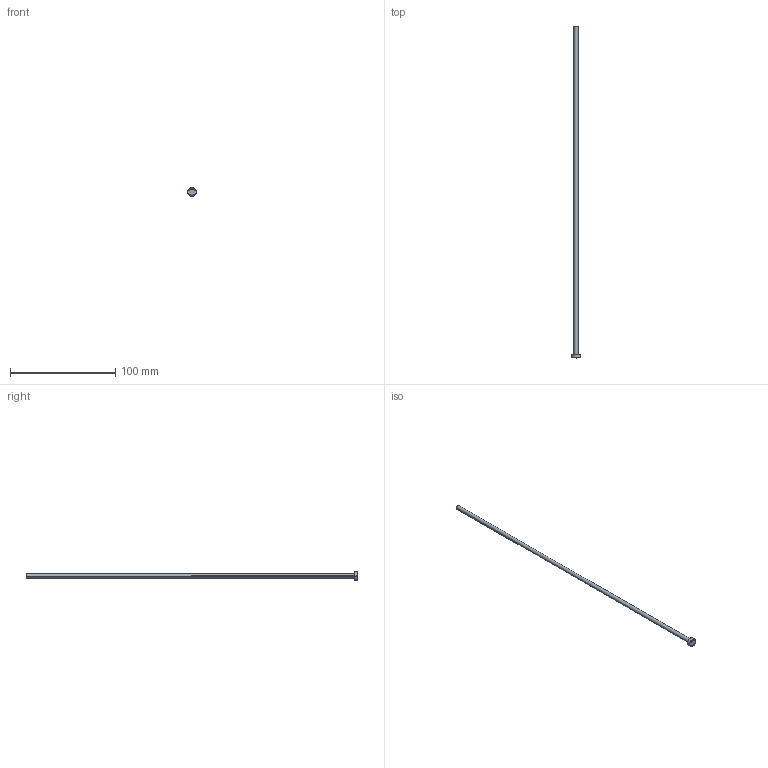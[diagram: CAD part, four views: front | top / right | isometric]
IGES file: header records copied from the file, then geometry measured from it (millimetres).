
Start section: SolidWorks IGES file using analytic representation for surfaces
Global section: file name: C:\Users\User\Downloads\Matripeça 31-08 tar\PB - PINO EXTRATOR TIPO _B_ (CATÁLOGO)\PB04,0\PB04,0315.IGS; native system: SolidWorks 2024; preprocessor: SolidWorks 2024; author: User; date: 260901.142254; units: millimetre
Bounding box: 8 x 315 x 8 mm (x, y, z)
Surface area: 4101.3 mm2 (no closed solid volume)
Topology: 0 solids, 0 shells, 407 faces, 3408 edges, 3408 vertices
Faces by surface type: bspline 393, revolution 14
